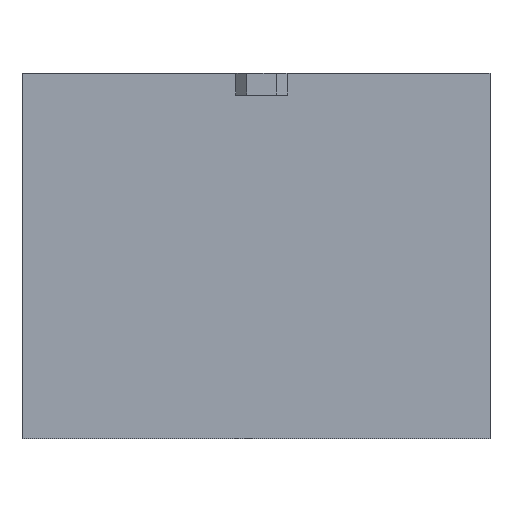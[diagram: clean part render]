
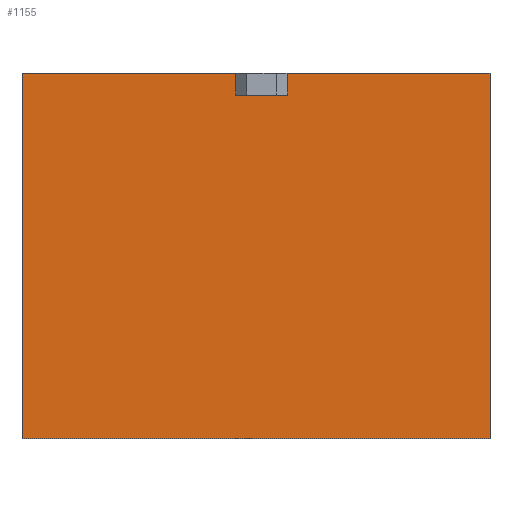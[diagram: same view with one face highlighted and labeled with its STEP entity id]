
A CAD part, front view. The second image highlights one B-rep face of the part: STEP entity #1155.
In plain terms, the highlighted planar face has unit normal (0, -1, 0).
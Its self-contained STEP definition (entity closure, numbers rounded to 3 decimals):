
#69=PLANE('',#1240);
#120=FACE_OUTER_BOUND('',#184,.T.);
#184=EDGE_LOOP('',(#934,#935,#936,#937,#938,#939,#940,#941));
#299=LINE('',#1738,#432);
#315=LINE('',#1773,#448);
#318=LINE('',#1779,#451);
#319=LINE('',#1781,#452);
#320=LINE('',#1783,#453);
#321=LINE('',#1785,#454);
#322=LINE('',#1786,#455);
#323=LINE('',#1787,#456);
#432=VECTOR('',#1421,10.);
#448=VECTOR('',#1445,10.);
#451=VECTOR('',#1450,10.);
#452=VECTOR('',#1451,10.);
#453=VECTOR('',#1452,10.);
#454=VECTOR('',#1453,10.);
#455=VECTOR('',#1454,10.);
#456=VECTOR('',#1455,10.);
#579=VERTEX_POINT('',#1731);
#582=VERTEX_POINT('',#1736);
#596=VERTEX_POINT('',#1770);
#597=VERTEX_POINT('',#1772);
#599=VERTEX_POINT('',#1778);
#600=VERTEX_POINT('',#1780);
#601=VERTEX_POINT('',#1782);
#602=VERTEX_POINT('',#1784);
#710=EDGE_CURVE('',#582,#579,#299,.T.);
#726=EDGE_CURVE('',#596,#597,#315,.T.);
#729=EDGE_CURVE('',#599,#582,#318,.T.);
#730=EDGE_CURVE('',#599,#600,#319,.T.);
#731=EDGE_CURVE('',#600,#601,#320,.T.);
#732=EDGE_CURVE('',#602,#601,#321,.T.);
#733=EDGE_CURVE('',#597,#602,#322,.T.);
#734=EDGE_CURVE('',#596,#579,#323,.T.);
#934=ORIENTED_EDGE('',*,*,#710,.F.);
#935=ORIENTED_EDGE('',*,*,#729,.F.);
#936=ORIENTED_EDGE('',*,*,#730,.T.);
#937=ORIENTED_EDGE('',*,*,#731,.T.);
#938=ORIENTED_EDGE('',*,*,#732,.F.);
#939=ORIENTED_EDGE('',*,*,#733,.F.);
#940=ORIENTED_EDGE('',*,*,#726,.F.);
#941=ORIENTED_EDGE('',*,*,#734,.T.);
#1155=ADVANCED_FACE('',(#120),#69,.T.);
#1240=AXIS2_PLACEMENT_3D('',#1777,#1448,#1449);
#1421=DIRECTION('',(0.,0.,-1.));
#1445=DIRECTION('',(0.,0.,1.));
#1448=DIRECTION('center_axis',(0.,-1.,0.));
#1449=DIRECTION('ref_axis',(0.,0.,-1.));
#1450=DIRECTION('',(1.,0.,0.));
#1451=DIRECTION('',(0.,0.,-1.));
#1452=DIRECTION('',(1.,0.,0.));
#1453=DIRECTION('',(0.,0.,-1.));
#1454=DIRECTION('',(1.,0.,0.));
#1455=DIRECTION('',(-1.,0.,0.));
#1731=CARTESIAN_POINT('',(58.5,0.,94.));
#1736=CARTESIAN_POINT('',(58.5,0.,100.));
#1738=CARTESIAN_POINT('',(58.5,0.,100.));
#1770=CARTESIAN_POINT('',(72.5,0.,94.));
#1772=CARTESIAN_POINT('',(72.5,0.,100.));
#1773=CARTESIAN_POINT('',(72.5,0.,100.));
#1777=CARTESIAN_POINT('Origin',(0.,0.,100.));
#1778=CARTESIAN_POINT('',(0.,0.,100.));
#1779=CARTESIAN_POINT('',(0.,0.,100.));
#1780=CARTESIAN_POINT('',(0.,0.,0.));
#1781=CARTESIAN_POINT('',(0.,0.,100.));
#1782=CARTESIAN_POINT('',(128.,0.,0.));
#1783=CARTESIAN_POINT('',(0.,0.,0.));
#1784=CARTESIAN_POINT('',(128.,0.,100.));
#1785=CARTESIAN_POINT('',(128.,0.,97.));
#1786=CARTESIAN_POINT('',(0.,0.,100.));
#1787=CARTESIAN_POINT('',(32.75,0.,94.));
